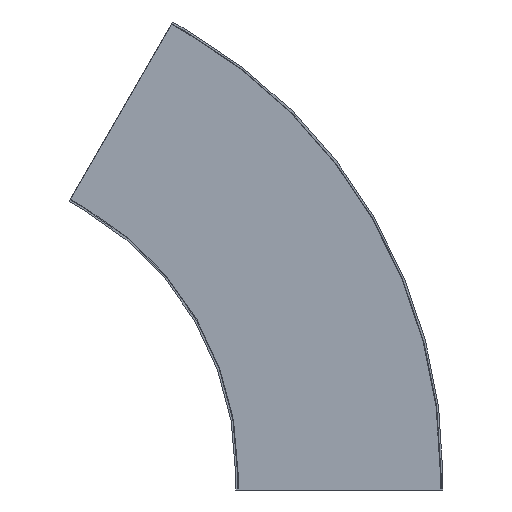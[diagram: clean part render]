
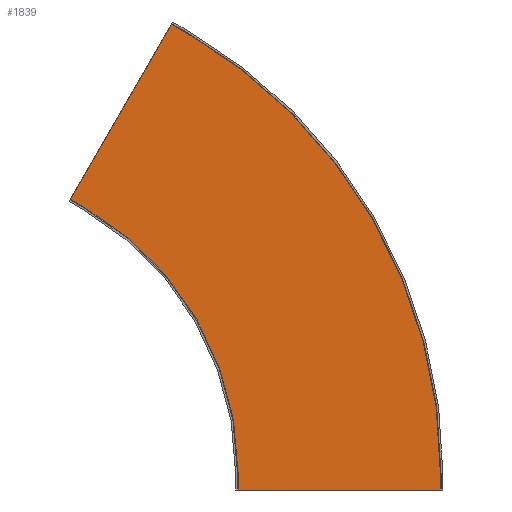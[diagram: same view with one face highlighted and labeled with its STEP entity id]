
A CAD part, front view. The second image highlights one B-rep face of the part: STEP entity #1839.
In plain terms, the highlighted planar face has unit normal (0, -1, 0).
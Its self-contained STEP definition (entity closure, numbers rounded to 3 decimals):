
#83 = LINE ( 'NONE', #282, #2244 ) ;
#110 = ORIENTED_EDGE ( 'NONE', *, *, #411, .F. ) ;
#181 = CARTESIAN_POINT ( 'NONE',  ( 1597.5, -68.25, -52.5 ) ) ;
#201 = ORIENTED_EDGE ( 'NONE', *, *, #2163, .T. ) ;
#234 = CARTESIAN_POINT ( 'NONE',  ( 753.284, -68.25, 1409.726 ) ) ;
#235 = CARTESIAN_POINT ( 'NONE',  ( 962.5, -68.25, 0. ) ) ;
#238 = VERTEX_POINT ( 'NONE', #1167 ) ;
#243 = CARTESIAN_POINT ( 'NONE',  ( 481.25, -68.25, 833.549 ) ) ;
#260 = CARTESIAN_POINT ( 'NONE',  ( 435.784, -68.25, 859.799 ) ) ;
#282 = CARTESIAN_POINT ( 'NONE',  ( 753.284, -68.25, 1409.726 ) ) ;
#298 = CARTESIAN_POINT ( 'NONE',  ( 798.75, -68.25, 1383.476 ) ) ;
#300 = DIRECTION ( 'NONE',  ( 0.866, 0., -0.5 ) ) ;
#365 = EDGE_CURVE ( 'NONE', #1035, #1844, #1131, .T. ) ;
#411 = EDGE_CURVE ( 'NONE', #778, #1816, #2380, .T. ) ;
#495 = LINE ( 'NONE', #1336, #2198 ) ;
#521 = CARTESIAN_POINT ( 'NONE',  ( 0., -68.25, 0. ) ) ;
#540 = DIRECTION ( 'NONE',  ( -1., 0., 0. ) ) ;
#552 = DIRECTION ( 'NONE',  ( 0., 0., 1. ) ) ;
#571 = VERTEX_POINT ( 'NONE', #260 ) ;
#698 = AXIS2_PLACEMENT_3D ( 'NONE', #521, #1093, #540 ) ;
#712 = CIRCLE ( 'NONE', #698, 962.5 ) ;
#778 = VERTEX_POINT ( 'NONE', #2290 ) ;
#814 = DIRECTION ( 'NONE',  ( 0., 0., 1. ) ) ;
#872 = ORIENTED_EDGE ( 'NONE', *, *, #1651, .F. ) ;
#910 = ORIENTED_EDGE ( 'NONE', *, *, #1309, .F. ) ;
#951 = CARTESIAN_POINT ( 'NONE',  ( 435.784, -68.25, 859.799 ) ) ;
#987 = DIRECTION ( 'NONE',  ( -1., 0., 0. ) ) ;
#1035 = VERTEX_POINT ( 'NONE', #298 ) ;
#1093 = DIRECTION ( 'NONE',  ( 0., 1., 0. ) ) ;
#1125 = DIRECTION ( 'NONE',  ( -1., 0., 0. ) ) ;
#1131 = CIRCLE ( 'NONE', #1287, 1597.5 ) ;
#1167 = CARTESIAN_POINT ( 'NONE',  ( 481.25, -68.25, 833.549 ) ) ;
#1287 = AXIS2_PLACEMENT_3D ( 'NONE', #2342, #1579, #2324 ) ;
#1297 = EDGE_CURVE ( 'NONE', #571, #2275, #1967, .T. ) ;
#1309 = EDGE_CURVE ( 'NONE', #1381, #778, #495, .T. ) ;
#1336 = CARTESIAN_POINT ( 'NONE',  ( 0., -68.25, -52.5 ) ) ;
#1381 = VERTEX_POINT ( 'NONE', #181 ) ;
#1409 = VECTOR ( 'NONE', #552, 1000. ) ;
#1416 = DIRECTION ( 'NONE',  ( 0., 1., 0. ) ) ;
#1429 = ORIENTED_EDGE ( 'NONE', *, *, #365, .F. ) ;
#1533 = AXIS2_PLACEMENT_3D ( 'NONE', #243, #1416, #987 ) ;
#1542 = DIRECTION ( 'NONE',  ( 0.866, 0., -0.5 ) ) ;
#1579 = DIRECTION ( 'NONE',  ( 0., 1., 0. ) ) ;
#1584 = VECTOR ( 'NONE', #2279, 1000. ) ;
#1586 = PLANE ( 'NONE',  #1533 ) ;
#1594 = FACE_OUTER_BOUND ( 'NONE', #1595, .T. ) ;
#1595 = EDGE_LOOP ( 'NONE', ( #2443, #110, #910, #201, #1429, #872, #2345, #2327 ) ) ;
#1651 = EDGE_CURVE ( 'NONE', #2275, #1035, #83, .T. ) ;
#1709 = CARTESIAN_POINT ( 'NONE',  ( 1597.5, -68.25, -52.5 ) ) ;
#1816 = VERTEX_POINT ( 'NONE', #235 ) ;
#1839 = ADVANCED_FACE ( 'NONE', ( #1594 ), #1586, .F. ) ;
#1844 = VERTEX_POINT ( 'NONE', #1983 ) ;
#1885 = LINE ( 'NONE', #951, #2122 ) ;
#1967 = LINE ( 'NONE', #2095, #1584 ) ;
#1975 = CARTESIAN_POINT ( 'NONE',  ( 962.5, -68.25, -52.5 ) ) ;
#1977 = LINE ( 'NONE', #1709, #1409 ) ;
#1983 = CARTESIAN_POINT ( 'NONE',  ( 1597.5, -68.25, 0. ) ) ;
#1985 = EDGE_CURVE ( 'NONE', #238, #1816, #712, .T. ) ;
#1997 = VECTOR ( 'NONE', #814, 1000. ) ;
#2095 = CARTESIAN_POINT ( 'NONE',  ( -45.466, -68.25, 26.25 ) ) ;
#2122 = VECTOR ( 'NONE', #1542, 1000. ) ;
#2163 = EDGE_CURVE ( 'NONE', #1381, #1844, #1977, .T. ) ;
#2198 = VECTOR ( 'NONE', #1125, 1000. ) ;
#2199 = EDGE_CURVE ( 'NONE', #571, #238, #1885, .T. ) ;
#2244 = VECTOR ( 'NONE', #300, 1000. ) ;
#2275 = VERTEX_POINT ( 'NONE', #234 ) ;
#2279 = DIRECTION ( 'NONE',  ( 0.5, 0., 0.866 ) ) ;
#2290 = CARTESIAN_POINT ( 'NONE',  ( 962.5, -68.25, -52.5 ) ) ;
#2324 = DIRECTION ( 'NONE',  ( -1., 0., 0. ) ) ;
#2327 = ORIENTED_EDGE ( 'NONE', *, *, #2199, .T. ) ;
#2342 = CARTESIAN_POINT ( 'NONE',  ( 0., -68.25, 0. ) ) ;
#2345 = ORIENTED_EDGE ( 'NONE', *, *, #1297, .F. ) ;
#2380 = LINE ( 'NONE', #1975, #1997 ) ;
#2443 = ORIENTED_EDGE ( 'NONE', *, *, #1985, .T. ) ;
